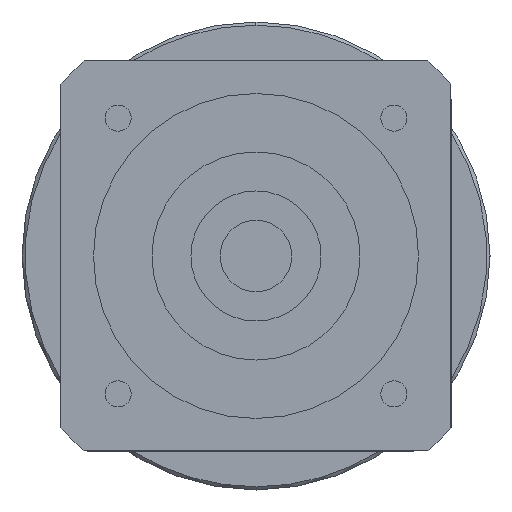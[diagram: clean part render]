
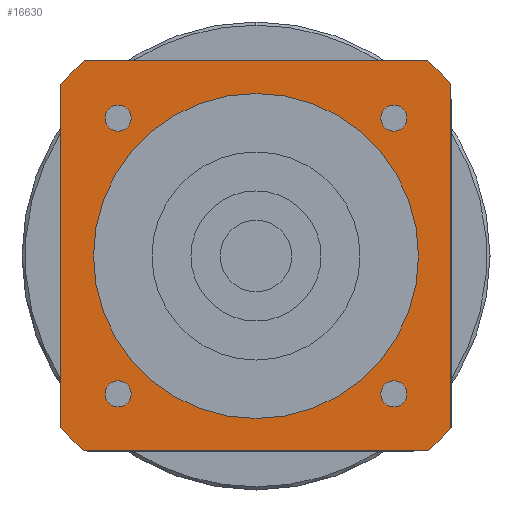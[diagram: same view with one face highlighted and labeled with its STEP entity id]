
A CAD part, left-side view. The second image highlights one B-rep face of the part: STEP entity #16630.
In plain terms, the highlighted planar face has unit normal (-1, 0, 0) as drawn and (0, 0, -1) by its records, which use the part's own axes.
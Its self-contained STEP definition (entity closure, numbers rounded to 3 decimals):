
#12350=CARTESIAN_POINT('',(-30.,-26.458,-91.5));
#12360=VERTEX_POINT('',#12350);
#12440=CARTESIAN_POINT('',(-26.458,-30.,-91.5));
#12450=VERTEX_POINT('',#12440);
#12480=CARTESIAN_POINT('',(0.,0.,
-91.5));
#12490=DIRECTION('',(0.,0.,1.));
#12500=DIRECTION('',(0.,-1.,0.));
#12510=AXIS2_PLACEMENT_3D('',#12480,#12490,#12500);
#12520=CIRCLE('',#12510,40.);
#12530=EDGE_CURVE('',#12360,#12450,#12520,.T.);
#14460=CARTESIAN_POINT('',(26.458,30.,-91.5));
#14470=VERTEX_POINT('',#14460);
#14650=CARTESIAN_POINT('',(-26.458,30.,-91.5));
#14660=VERTEX_POINT('',#14650);
#14690=CARTESIAN_POINT('',(30.,30.,-91.5));
#14700=DIRECTION('',(-1.,0.,0.));
#14710=VECTOR('',#14700,1000.);
#14720=LINE('',#14690,#14710);
#14730=EDGE_CURVE('',#14470,#14660,#14720,.T.);
#14970=CARTESIAN_POINT('',(-30.,26.458,-91.5));
#14980=VERTEX_POINT('',#14970);
#15010=CARTESIAN_POINT('',(0.,0.,
-91.5));
#15020=DIRECTION('',(0.,0.,1.));
#15030=DIRECTION('',(0.,-1.,0.));
#15040=AXIS2_PLACEMENT_3D('',#15010,#15020,#15030);
#15050=CIRCLE('',#15040,40.);
#15060=EDGE_CURVE('',#14660,#14980,#15050,.T.);
#15200=CARTESIAN_POINT('',(-30.,30.,-91.5));
#15210=DIRECTION('',(0.,0.,1.));
#15220=DIRECTION('',(-1.,0.,0.));
#15230=AXIS2_PLACEMENT_3D('',#15200,#15210,#15220);
#15240=PLANE('',#15230);
#15250=CARTESIAN_POINT('',(21.213,-21.213,-91.5));
#15260=DIRECTION('',(0.,0.,-1.));
#15270=DIRECTION('',(1.,0.,0.));
#15280=AXIS2_PLACEMENT_3D('',#15250,#15260,#15270);
#15290=CIRCLE('',#15280,2.);
#15300=CARTESIAN_POINT('',(23.213,-21.213,-91.5));
#15310=VERTEX_POINT('',#15300);
#15320=CARTESIAN_POINT('',(21.213,-23.213,-91.5));
#15330=VERTEX_POINT('',#15320);
#15340=EDGE_CURVE('',#15310,#15330,#15290,.T.);
#15350=ORIENTED_EDGE('',*,*,#15340,.F.);
#15360=CARTESIAN_POINT('',(21.213,-19.213,-91.5));
#15370=VERTEX_POINT('',#15360);
#15380=EDGE_CURVE('',#15330,#15370,#15290,.T.);
#15390=ORIENTED_EDGE('',*,*,#15380,.F.);
#15400=EDGE_CURVE('',#15370,#15310,#15290,.T.);
#15410=ORIENTED_EDGE('',*,*,#15400,.F.);
#15420=EDGE_LOOP('',(#15410,#15390,#15350));
#15430=FACE_BOUND('',#15420,.T.);
#15440=CARTESIAN_POINT('',(21.213,21.213,-91.5));
#15450=DIRECTION('',(0.,0.,-1.));
#15460=DIRECTION('',(0.,1.,0.));
#15470=AXIS2_PLACEMENT_3D('',#15440,#15450,#15460);
#15480=CIRCLE('',#15470,2.);
#15490=CARTESIAN_POINT('',(21.213,23.213,-91.5));
#15500=VERTEX_POINT('',#15490);
#15510=CARTESIAN_POINT('',(23.213,21.213,-91.5));
#15520=VERTEX_POINT('',#15510);
#15530=EDGE_CURVE('',#15500,#15520,#15480,.T.);
#15540=ORIENTED_EDGE('',*,*,#15530,.F.);
#15550=CARTESIAN_POINT('',(19.213,21.213,-91.5));
#15560=VERTEX_POINT('',#15550);
#15570=EDGE_CURVE('',#15520,#15560,#15480,.T.);
#15580=ORIENTED_EDGE('',*,*,#15570,.F.);
#15590=EDGE_CURVE('',#15560,#15500,#15480,.T.);
#15600=ORIENTED_EDGE('',*,*,#15590,.F.);
#15610=EDGE_LOOP('',(#15600,#15580,#15540));
#15620=FACE_BOUND('',#15610,.T.);
#15630=CARTESIAN_POINT('',(-21.213,21.213,-91.5));
#15640=DIRECTION('',(0.,0.,-1.));
#15650=DIRECTION('',(-1.,0.,0.));
#15660=AXIS2_PLACEMENT_3D('',#15630,#15640,#15650);
#15670=CIRCLE('',#15660,2.);
#15680=CARTESIAN_POINT('',(-23.213,21.213,-91.5));
#15690=VERTEX_POINT('',#15680);
#15700=CARTESIAN_POINT('',(-21.213,23.213,-91.5));
#15710=VERTEX_POINT('',#15700);
#15720=EDGE_CURVE('',#15690,#15710,#15670,.T.);
#15730=ORIENTED_EDGE('',*,*,#15720,.F.);
#15740=CARTESIAN_POINT('',(-21.213,19.213,-91.5));
#15750=VERTEX_POINT('',#15740);
#15760=EDGE_CURVE('',#15710,#15750,#15670,.T.);
#15770=ORIENTED_EDGE('',*,*,#15760,.F.);
#15780=EDGE_CURVE('',#15750,#15690,#15670,.T.);
#15790=ORIENTED_EDGE('',*,*,#15780,.F.);
#15800=EDGE_LOOP('',(#15790,#15770,#15730));
#15810=FACE_BOUND('',#15800,.T.);
#15820=CARTESIAN_POINT('',(-21.213,-21.213,-91.5));
#15830=DIRECTION('',(0.,0.,-1.));
#15840=DIRECTION('',(0.,-1.,0.));
#15850=AXIS2_PLACEMENT_3D('',#15820,#15830,#15840);
#15860=CIRCLE('',#15850,2.);
#15870=CARTESIAN_POINT('',(-21.213,-23.213,-91.5));
#15880=VERTEX_POINT('',#15870);
#15890=CARTESIAN_POINT('',(-23.213,-21.213,-91.5));
#15900=VERTEX_POINT('',#15890);
#15910=EDGE_CURVE('',#15880,#15900,#15860,.T.);
#15920=ORIENTED_EDGE('',*,*,#15910,.F.);
#15930=CARTESIAN_POINT('',(-19.213,-21.213,-91.5));
#15940=VERTEX_POINT('',#15930);
#15950=EDGE_CURVE('',#15900,#15940,#15860,.T.);
#15960=ORIENTED_EDGE('',*,*,#15950,.F.);
#15970=EDGE_CURVE('',#15940,#15880,#15860,.T.);
#15980=ORIENTED_EDGE('',*,*,#15970,.F.);
#15990=EDGE_LOOP('',(#15980,#15960,#15920));
#16000=FACE_BOUND('',#15990,.T.);
#16010=ORIENTED_EDGE('',*,*,#12530,.F.);
#16020=CARTESIAN_POINT('',(-30.,-30.,-91.5));
#16030=DIRECTION('',(1.,0.,0.));
#16040=VECTOR('',#16030,1000.);
#16050=LINE('',#16020,#16040);
#16060=CARTESIAN_POINT('',(26.458,-30.,-91.5));
#16070=VERTEX_POINT('',#16060);
#16080=EDGE_CURVE('',#12450,#16070,#16050,.T.);
#16090=ORIENTED_EDGE('',*,*,#16080,.F.);
#16100=CARTESIAN_POINT('',(0.,0.,
-91.5));
#16110=DIRECTION('',(0.,0.,1.));
#16120=DIRECTION('',(0.,-1.,0.));
#16130=AXIS2_PLACEMENT_3D('',#16100,#16110,#16120);
#16140=CIRCLE('',#16130,40.);
#16150=CARTESIAN_POINT('',(30.,-26.458,-91.5));
#16160=VERTEX_POINT('',#16150);
#16170=EDGE_CURVE('',#16070,#16160,#16140,.T.);
#16180=ORIENTED_EDGE('',*,*,#16170,.F.);
#16190=CARTESIAN_POINT('',(30.,-30.,-91.5));
#16200=DIRECTION('',(0.,1.,0.));
#16210=VECTOR('',#16200,1000.);
#16220=LINE('',#16190,#16210);
#16230=CARTESIAN_POINT('',(30.,26.458,-91.5));
#16240=VERTEX_POINT('',#16230);
#16250=EDGE_CURVE('',#16160,#16240,#16220,.T.);
#16260=ORIENTED_EDGE('',*,*,#16250,.F.);
#16270=CARTESIAN_POINT('',(0.,0.,
-91.5));
#16280=DIRECTION('',(0.,0.,1.));
#16290=DIRECTION('',(0.,-1.,0.));
#16300=AXIS2_PLACEMENT_3D('',#16270,#16280,#16290);
#16310=CIRCLE('',#16300,40.);
#16320=EDGE_CURVE('',#16240,#14470,#16310,.T.);
#16330=ORIENTED_EDGE('',*,*,#16320,.F.);
#16340=ORIENTED_EDGE('',*,*,#14730,.F.);
#16350=ORIENTED_EDGE('',*,*,#15060,.F.);
#16360=CARTESIAN_POINT('',(-30.,30.,-91.5));
#16370=DIRECTION('',(0.,-1.,0.));
#16380=VECTOR('',#16370,1000.);
#16390=LINE('',#16360,#16380);
#16400=EDGE_CURVE('',#14980,#12360,#16390,.T.);
#16410=ORIENTED_EDGE('',*,*,#16400,.F.);
#16420=EDGE_LOOP('',(#16410,#16350,#16340,#16330,#16260,#16180,#16090,
#16010));
#16430=FACE_OUTER_BOUND('',#16420,.T.);
#16440=CARTESIAN_POINT('',(0.,0.,
-91.5));
#16450=DIRECTION('',(0.,0.,1.));
#16460=DIRECTION('',(0.,-1.,0.));
#16470=AXIS2_PLACEMENT_3D('',#16440,#16450,#16460);
#16480=CIRCLE('',#16470,25.);
#16490=CARTESIAN_POINT('',(25.,0.,-91.5));
#16500=VERTEX_POINT('',#16490);
#16510=CARTESIAN_POINT('',(-25.,0.,-91.5));
#16520=VERTEX_POINT('',#16510);
#16530=EDGE_CURVE('',#16500,#16520,#16480,.T.);
#16540=ORIENTED_EDGE('',*,*,#16530,.T.);
#16550=CARTESIAN_POINT('',(0.,-25.,-91.5));
#16560=VERTEX_POINT('',#16550);
#16570=EDGE_CURVE('',#16560,#16500,#16480,.T.);
#16580=ORIENTED_EDGE('',*,*,#16570,.T.);
#16590=EDGE_CURVE('',#16520,#16560,#16480,.T.);
#16600=ORIENTED_EDGE('',*,*,#16590,.T.);
#16610=EDGE_LOOP('',(#16600,#16580,#16540));
#16620=FACE_BOUND('',#16610,.T.);
#16630=ADVANCED_FACE('',(#15430,#15620,#15810,#16000,#16430,#16620),
#15240,.F.);
